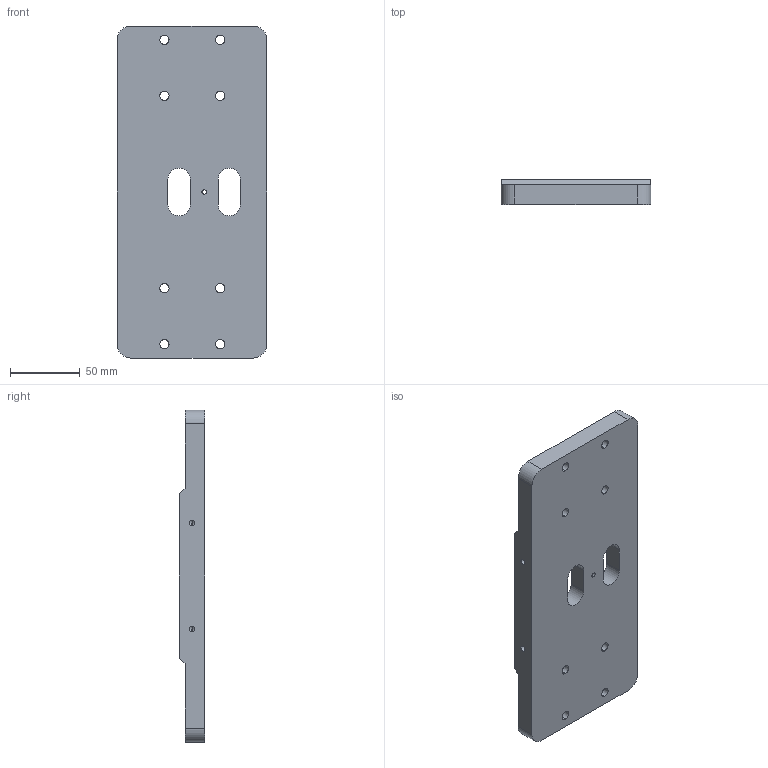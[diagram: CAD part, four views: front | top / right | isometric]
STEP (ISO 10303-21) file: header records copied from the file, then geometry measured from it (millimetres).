
FILE_DESCRIPTION (( 'STEP AP214' ), '1' );
FILE_NAME ('AGZ061.02.01_V1 2.0气囊定位板.STEP', '2021-09-22T09:05:55', ( '微软中国' ), ( 'Microsoft' ), 'SwSTEP 2.0', 'SolidWorks 2017', '' );
FILE_SCHEMA (( 'AUTOMOTIVE_DESIGN' ));
Length unit declared in the file: millimetre
Products named in the file (1): AGZ061.02.01_V1 2.0气囊定位板
Bounding box: 107.5 x 18 x 238 mm (x, y, z)
Volume: 348552.9 mm3; surface area: 66402.1 mm2
Topology: 1 solids, 1 shells, 127 faces, 312 edges, 192 vertices
Faces by surface type: cylinder 59, plane 47, cone 21
Entity records: 3848 total; most frequent: DIRECTION 690, CARTESIAN_POINT 637, ORIENTED_EDGE 610, EDGE_CURVE 305, AXIS2_PLACEMENT_3D 261, VERTEX_POINT 192, VECTOR 168, LINE 168
